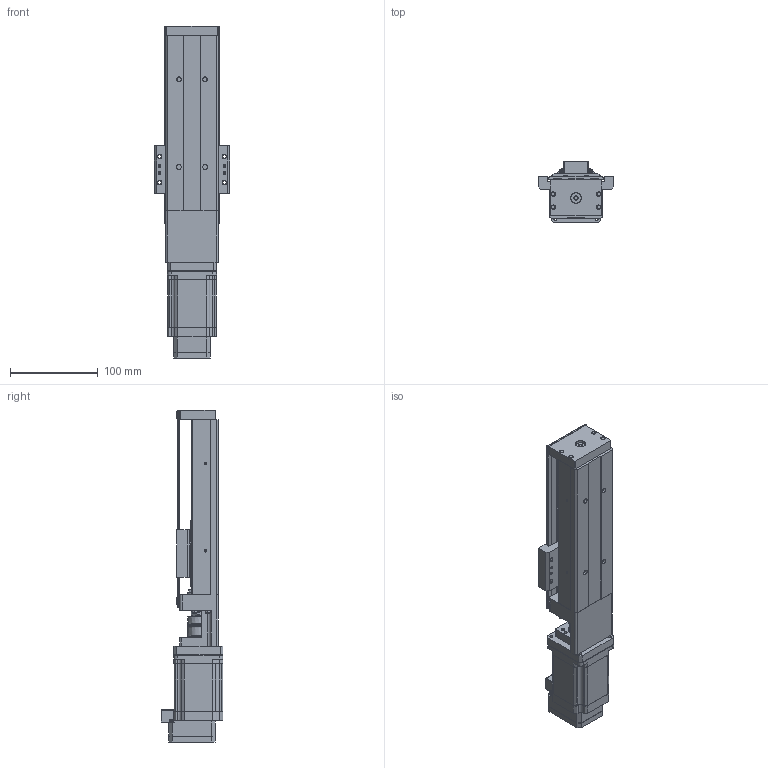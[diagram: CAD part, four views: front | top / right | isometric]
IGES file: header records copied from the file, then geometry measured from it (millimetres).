
Start section: SolidWorks IGES file using analytic representation for surfaces
Global section: file name: \\MYODRIVE\Public\CAD Files\Integrated-Actuators\PA-Series\PA33\PA33-A-06-100-S-10A0-23L20-X.IGS; native system: SolidWorks 2015; preprocessor: SolidWorks 2015; author: RENDER; date: 150106.095307; units: millimetre
Bounding box: 86 x 70.81 x 379.3 mm (x, y, z)
Surface area: 193270.6 mm2 (no closed solid volume)
Topology: 0 solids, 0 shells, 1841 faces, 20845 edges, 20739 vertices
Faces by surface type: bspline 1093, revolution 748
